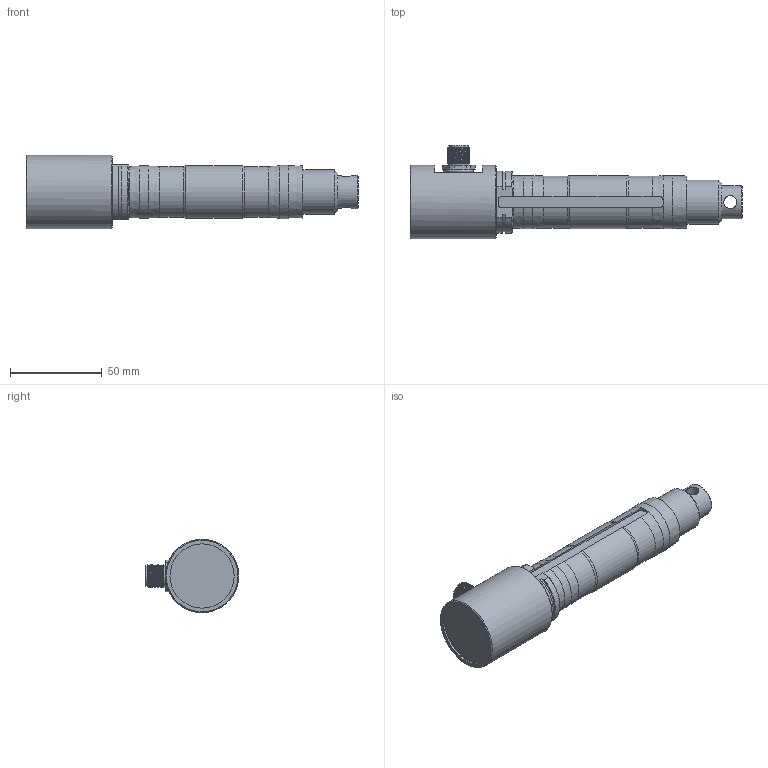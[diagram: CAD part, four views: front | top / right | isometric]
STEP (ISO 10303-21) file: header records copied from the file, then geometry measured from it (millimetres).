
FILE_DESCRIPTION(/* description */ ('Alibre Inc.'),/* implementation_level */ '2;1');
FILE_NAME(/* name */ 'export-450829F3-2F48-40C7-A594-45870B9F70F0',/* time_stamp */ '2023-09-28T08:10:46+02:00',/* author */ (''),/* organization */ (''),/* preprocessor_version */ 'ST-DEVELOPER v17',/* originating_system */ 'Alibre',/* authorisation */ '');
FILE_SCHEMA (('CONFIG_CONTROL_DESIGN'));
Length unit declared in the file: centimetre
Bounding box: 181 x 51 x 40 mm (x, y, z)
Volume: 195018.7 mm3; surface area: 96142.5 mm2
Topology: 6 solids, 7 shells, 179 faces, 429 edges, 273 vertices
Faces by surface type: plane 69, cylinder 60, bspline 23, cone 19, torus 8
Full cylindrical faces by diameter (mm): 0.5 x8, 7 x1, 8 x2, 10 x1, 11 x1, 11.5 x1, 13 x2, 14.5 x1, 18 x1, 24 x1, 29 x1, 35 x1, 40 x1
Entity records: 15096 total; most frequent: CARTESIAN_POINT 11497, ORIENTED_EDGE 766, DIRECTION 489, EDGE_CURVE 376, VERTEX_POINT 254, EDGE_LOOP 236, FACE_BOUND 236, AXIS2_PLACEMENT_3D 209
